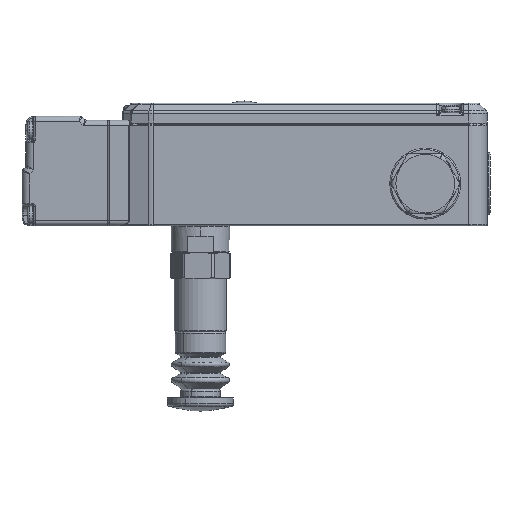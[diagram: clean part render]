
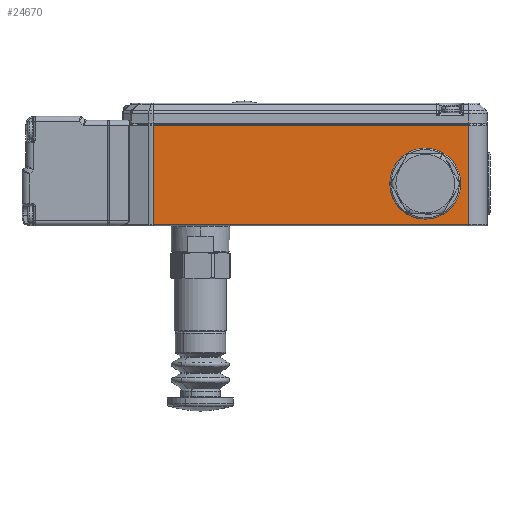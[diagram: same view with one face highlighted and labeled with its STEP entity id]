
A CAD part, left-side view. The second image highlights one B-rep face of the part: STEP entity #24670.
In plain terms, the highlighted planar face has unit normal (-1, 0, 0).
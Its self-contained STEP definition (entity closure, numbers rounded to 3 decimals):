
#5896 = EDGE_CURVE ( 'NONE', #50556, #28215, #13666, .T. ) ;
#5898 = EDGE_CURVE ( 'NONE', #50558, #50557, #13671, .T. ) ;
#5899 = EDGE_CURVE ( 'NONE', #50557, #50558, #13673, .T. ) ;
#5901 = EDGE_CURVE ( 'NONE', #28208, #50556, #13672, .T. ) ;
#10361 = VECTOR ( 'NONE', #20030, 1000. ) ;
#10363 = LINE ( 'NONE', #20025, #10361 ) ;
#10386 = VECTOR ( 'NONE', #20088, 1000. ) ;
#10392 = LINE ( 'NONE', #20075, #10386 ) ;
#11497 = EDGE_CURVE ( 'NONE', #28215, #28210, #10363, .T. ) ;
#11518 = EDGE_CURVE ( 'NONE', #28210, #28208, #10392, .T. ) ;
#13662 = VECTOR ( 'NONE', #56202, 1000. ) ;
#13666 = LINE ( 'NONE', #56195, #13662 ) ;
#13671 = CIRCLE ( 'NONE', #21184, 11.314 ) ;
#13672 = LINE ( 'NONE', #56205, #13674 ) ;
#13673 = CIRCLE ( 'NONE', #21185, 11.314 ) ;
#13674 = VECTOR ( 'NONE', #56215, 1000. ) ;
#14431 = AXIS2_PLACEMENT_3D ( 'NONE', #49577, #49587, #49589 ) ;
#15843 = ORIENTED_EDGE ( 'NONE', *, *, #5898, .T. ) ;
#16188 = ORIENTED_EDGE ( 'NONE', *, *, #5899, .T. ) ;
#16223 = ORIENTED_EDGE ( 'NONE', *, *, #11518, .T. ) ;
#16224 = ORIENTED_EDGE ( 'NONE', *, *, #5901, .T. ) ;
#16226 = ORIENTED_EDGE ( 'NONE', *, *, #11497, .T. ) ;
#16228 = ORIENTED_EDGE ( 'NONE', *, *, #5896, .T. ) ;
#16999 = FACE_BOUND ( 'NONE', #31635, .T. ) ;
#17008 = FACE_OUTER_BOUND ( 'NONE', #27519, .T. ) ;
#20025 = CARTESIAN_POINT ( 'NONE',  ( -23., -13.624, 38.5 ) ) ;
#20030 = DIRECTION ( 'NONE',  ( 0., 0., -1. ) ) ;
#20075 = CARTESIAN_POINT ( 'NONE',  ( -23., -12.742, 0.5 ) ) ;
#20088 = DIRECTION ( 'NONE',  ( 0., -1., 0. ) ) ;
#21184 = AXIS2_PLACEMENT_3D ( 'NONE', #56203, #56206, #56207 ) ;
#21185 = AXIS2_PLACEMENT_3D ( 'NONE', #56208, #56209, #56210 ) ;
#24670 = ADVANCED_FACE ( 'NONE', ( #16999, #17008 ), #49568, .F. ) ;
#27519 = EDGE_LOOP ( 'NONE', ( #16224, #16228, #16226, #16223 ) ) ;
#28208 = VERTEX_POINT ( 'NONE', #50163 ) ;
#28210 = VERTEX_POINT ( 'NONE', #50165 ) ;
#28215 = VERTEX_POINT ( 'NONE', #50170 ) ;
#31635 = EDGE_LOOP ( 'NONE', ( #16188, #15843 ) ) ;
#38286 = CARTESIAN_POINT ( 'NONE',  ( -23., -133., 38. ) ) ;
#38288 = CARTESIAN_POINT ( 'NONE',  ( -23., -105.186, 16. ) ) ;
#38290 = CARTESIAN_POINT ( 'NONE',  ( -23., -127.814, 16. ) ) ;
#49568 = PLANE ( 'NONE',  #14431 ) ;
#49577 = CARTESIAN_POINT ( 'NONE',  ( -23., -12.742, 38.5 ) ) ;
#49587 = DIRECTION ( 'NONE',  ( 1., 0., 0. ) ) ;
#49589 = DIRECTION ( 'NONE',  ( 0., 1., 0. ) ) ;
#50163 = CARTESIAN_POINT ( 'NONE',  ( -23., -133., 0.5 ) ) ;
#50165 = CARTESIAN_POINT ( 'NONE',  ( -23., -13.624, 0.5 ) ) ;
#50170 = CARTESIAN_POINT ( 'NONE',  ( -23., -13.624, 38. ) ) ;
#50556 = VERTEX_POINT ( 'NONE', #38286 ) ;
#50557 = VERTEX_POINT ( 'NONE', #38288 ) ;
#50558 = VERTEX_POINT ( 'NONE', #38290 ) ;
#56195 = CARTESIAN_POINT ( 'NONE',  ( -23., -13.624, 38. ) ) ;
#56202 = DIRECTION ( 'NONE',  ( 0., 1., 0. ) ) ;
#56203 = CARTESIAN_POINT ( 'NONE',  ( -23., -116.5, 16. ) ) ;
#56205 = CARTESIAN_POINT ( 'NONE',  ( -23., -133., 38.5 ) ) ;
#56206 = DIRECTION ( 'NONE',  ( 1., 0., 0. ) ) ;
#56207 = DIRECTION ( 'NONE',  ( 0., 1., 0. ) ) ;
#56208 = CARTESIAN_POINT ( 'NONE',  ( -23., -116.5, 16. ) ) ;
#56209 = DIRECTION ( 'NONE',  ( 1., 0., 0. ) ) ;
#56210 = DIRECTION ( 'NONE',  ( 0., 1., 0. ) ) ;
#56215 = DIRECTION ( 'NONE',  ( 0., 0., 1. ) ) ;
